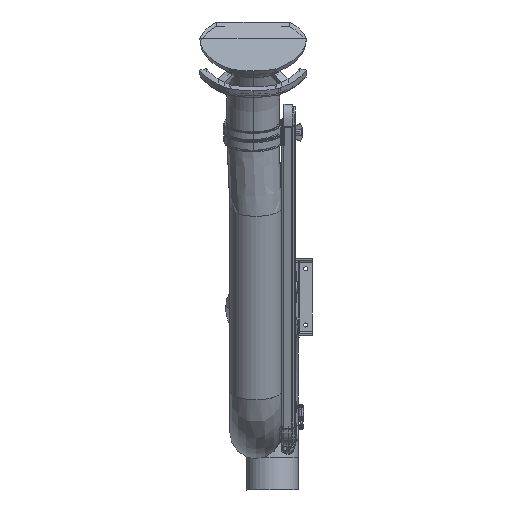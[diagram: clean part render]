
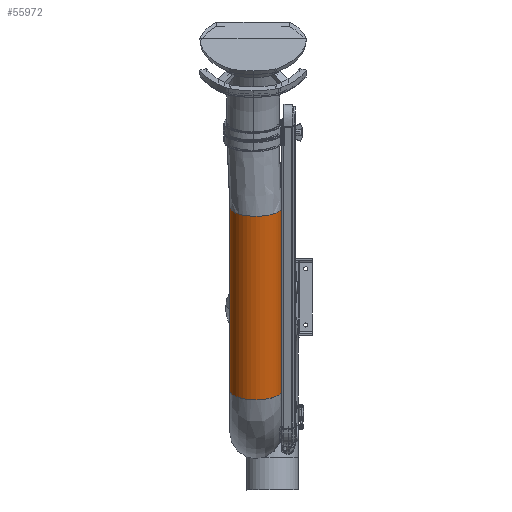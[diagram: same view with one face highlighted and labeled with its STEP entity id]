
A CAD part, front view. The second image highlights one B-rep face of the part: STEP entity #55972.
In plain terms, the highlighted free-form (B-spline) face has degree [3, 3] with [7, 6] control points.
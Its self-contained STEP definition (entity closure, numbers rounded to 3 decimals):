
#54125=CARTESIAN_POINT('',(-130.,0.,-275.));
#54126=CARTESIAN_POINT('',(-130.,0.,-341.667));
#54127=CARTESIAN_POINT('',(-130.,0.,-475.));
#54128=CARTESIAN_POINT('',(-130.,0.,-675.));
#54129=CARTESIAN_POINT('',(-130.,0.,-808.333));
#54130=CARTESIAN_POINT('',(-130.,0.,-875.));
#54135=CARTESIAN_POINT('',(-50.,0.,-275.));
#54136=DIRECTION('',(0.,0.,-1.));
#54137=DIRECTION('',(1.,0.,0.));
#54138=AXIS2_PLACEMENT_3D('',#54135,#54136,#54137);
#54143=CARTESIAN_POINT('',(30.,0.,-275.));
#54144=CARTESIAN_POINT('',(30.,0.,-341.667));
#54145=CARTESIAN_POINT('',(30.,0.,-475.));
#54146=CARTESIAN_POINT('',(30.,0.,-675.));
#54147=CARTESIAN_POINT('',(30.,0.,-808.333));
#54148=CARTESIAN_POINT('',(30.,0.,-875.));
#54153=CARTESIAN_POINT('',(-50.,0.,-875.));
#54154=DIRECTION('',(0.,0.,-1.));
#54155=DIRECTION('',(1.,0.,0.));
#54156=AXIS2_PLACEMENT_3D('',#54153,#54154,#54155);
#55609=CARTESIAN_POINT('',(30.,0.,-275.));
#55610=CARTESIAN_POINT('',(-130.,0.,-275.));
#55611=VERTEX_POINT('',#55609);
#55612=VERTEX_POINT('',#55610);
#55617=CARTESIAN_POINT('',(30.,0.,-875.));
#55618=CARTESIAN_POINT('',(-130.,0.,-875.));
#55619=VERTEX_POINT('',#55617);
#55620=VERTEX_POINT('',#55618);
#55922=CARTESIAN_POINT('',(29.842,5.023,-263.));
#55923=CARTESIAN_POINT('',(29.842,5.023,-267.));
#55924=CARTESIAN_POINT('',(29.842,5.023,-471.));
#55925=CARTESIAN_POINT('',(29.842,5.023,-679.));
#55926=CARTESIAN_POINT('',(29.842,5.023,-883.));
#55927=CARTESIAN_POINT('',(29.842,5.023,-887.));
#55928=CARTESIAN_POINT('',(32.933,-44.111,-263.));
#55929=CARTESIAN_POINT('',(32.933,-44.111,-267.));
#55930=CARTESIAN_POINT('',(32.933,-44.111,-471.));
#55931=CARTESIAN_POINT('',(32.933,-44.111,-679.));
#55932=CARTESIAN_POINT('',(32.933,-44.111,-883.));
#55933=CARTESIAN_POINT('',(32.933,-44.111,-887.));
#55934=CARTESIAN_POINT('',(-0.768,-80.,-263.));
#55935=CARTESIAN_POINT('',(-0.768,-80.,-267.));
#55936=CARTESIAN_POINT('',(-0.768,-80.,-471.));
#55937=CARTESIAN_POINT('',(-0.768,-80.,-679.));
#55938=CARTESIAN_POINT('',(-0.768,-80.,-883.));
#55939=CARTESIAN_POINT('',(-0.768,-80.,-887.));
#55940=CARTESIAN_POINT('',(-50.,-80.,-263.));
#55941=CARTESIAN_POINT('',(-50.,-80.,-267.));
#55942=CARTESIAN_POINT('',(-50.,-80.,-471.));
#55943=CARTESIAN_POINT('',(-50.,-80.,-679.));
#55944=CARTESIAN_POINT('',(-50.,-80.,-883.));
#55945=CARTESIAN_POINT('',(-50.,-80.,-887.));
#55946=CARTESIAN_POINT('',(-99.232,-80.,-263.));
#55947=CARTESIAN_POINT('',(-99.232,-80.,-267.));
#55948=CARTESIAN_POINT('',(-99.232,-80.,-471.));
#55949=CARTESIAN_POINT('',(-99.232,-80.,-679.));
#55950=CARTESIAN_POINT('',(-99.232,-80.,-883.));
#55951=CARTESIAN_POINT('',(-99.232,-80.,-887.));
#55952=CARTESIAN_POINT('',(-132.933,-44.111,-263.));
#55953=CARTESIAN_POINT('',(-132.933,-44.111,-267.));
#55954=CARTESIAN_POINT('',(-132.933,-44.111,-471.));
#55955=CARTESIAN_POINT('',(-132.933,-44.111,-679.));
#55956=CARTESIAN_POINT('',(-132.933,-44.111,-883.));
#55957=CARTESIAN_POINT('',(-132.933,-44.111,-887.));
#55958=CARTESIAN_POINT('',(-129.842,5.023,-263.));
#55959=CARTESIAN_POINT('',(-129.842,5.023,-267.));
#55960=CARTESIAN_POINT('',(-129.842,5.023,-471.));
#55961=CARTESIAN_POINT('',(-129.842,5.023,-679.));
#55962=CARTESIAN_POINT('',(-129.842,5.023,-883.));
#55963=CARTESIAN_POINT('',(-129.842,5.023,-887.));
#55964=(BOUNDED_SURFACE()B_SPLINE_SURFACE(3,3,((#55922,#55923,#55924,#55925,
#55926,#55927),(#55928,#55929,#55930,#55931,#55932,#55933),(#55934,#55935,
#55936,#55937,#55938,#55939),(#55940,#55941,#55942,#55943,#55944,#55945),
(#55946,#55947,#55948,#55949,#55950,#55951),(#55952,#55953,#55954,#55955,#55956,
#55957),(#55958,#55959,#55960,#55961,#55962,#55963)),.UNSPECIFIED.,.F.,.F.,.F.)B_SPLINE_SURFACE_WITH_KNOTS((4,3,4),(4,1,1,4),(0.,1.,2.),(-0.02,0.,1.,
1.02),.UNSPECIFIED.)GEOMETRIC_REPRESENTATION_ITEM()RATIONAL_B_SPLINE_SURFACE((
(1.187,1.187,1.187,1.187,
1.187,1.187),(0.938,0.938,
0.938,0.938,0.938,0.938),(
0.938,0.938,0.938,0.938,
0.938,0.938),(1.187,1.187,
1.187,1.187,1.187,1.187),(
0.938,0.938,0.938,0.938,
0.938,0.938),(0.938,0.938,
0.938,0.938,0.938,0.938),(
1.187,1.187,1.187,1.187,
1.187,1.187)))REPRESENTATION_ITEM('')SURFACE());
#55965=ORIENTED_EDGE('',*,*,#55769,.F.);
#55966=ORIENTED_EDGE('',*,*,#55910,.T.);
#55968=ORIENTED_EDGE('',*,*,#55967,.T.);
#55969=ORIENTED_EDGE('',*,*,#55906,.F.);
#55970=EDGE_LOOP('',(#55965,#55966,#55968,#55969));
#55971=FACE_OUTER_BOUND('',#55970,.F.);
#54131=B_SPLINE_CURVE_WITH_KNOTS('',3,(#54125,#54126,#54127,#54128,#54129,
#54130),.UNSPECIFIED.,.F.,.F.,(4,1,1,4),(0.,0.333,
0.667,1.),.UNSPECIFIED.);
#54139=CIRCLE('',#54138,80.);
#54149=B_SPLINE_CURVE_WITH_KNOTS('',3,(#54143,#54144,#54145,#54146,#54147,
#54148),.UNSPECIFIED.,.F.,.F.,(4,1,1,4),(0.,0.333,
0.667,1.),.UNSPECIFIED.);
#54157=CIRCLE('',#54156,80.);
#55769=EDGE_CURVE('',#55611,#55612,#54139,.T.);
#55906=EDGE_CURVE('',#55612,#55620,#54131,.T.);
#55910=EDGE_CURVE('',#55611,#55619,#54149,.T.);
#55967=EDGE_CURVE('',#55619,#55620,#54157,.T.);
#55972=ADVANCED_FACE('',(#55971),#55964,.T.);
